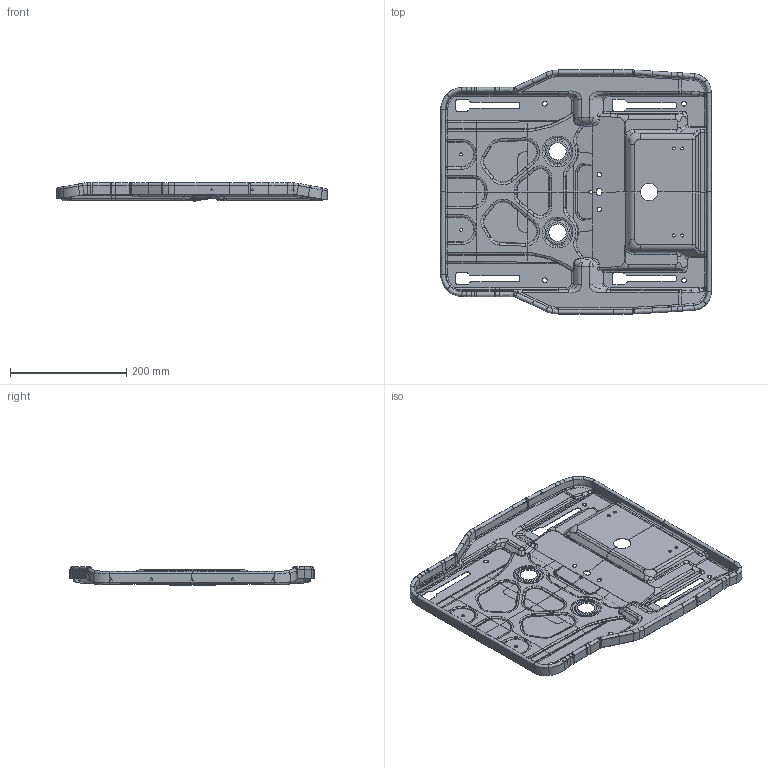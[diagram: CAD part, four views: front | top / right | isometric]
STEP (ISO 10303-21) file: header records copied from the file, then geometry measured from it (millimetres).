
FILE_DESCRIPTION(('CATIA V5 STEP'),'2;1');
FILE_NAME('E:\Gao Bingchuan\Desktop\SQX3000-6801101_F.stp','2021-11-19T12:38:22+00:00',('none'),('none'),'CATIA Version 5 Release 20 GA (IN-10)','CATIA V5 STEP AP203 WITH EXTENSIONS','none');
FILE_SCHEMA(('CONFIG_CONTROL_DESIGN','SHAPE_APPEARANCE_LAYER_MIM'));
Products named in the file (1): SQX3000-6801101
Bounding box: 466.21 x 420.71 x 31.4 mm (x, y, z)
Volume: 239843.8 mm3; surface area: 485019.8 mm2
Topology: 1 solids, 1 shells, 1890 faces, 4708 edges, 2782 vertices
Faces by surface type: bspline 1010, cylinder 540, plane 256, torus 44, cone 16, sphere 12, extrusion 12
Entity records: 193996 total; most frequent: CARTESIAN_POINT 159172, ORIENTED_EDGE 9368, EDGE_CURVE 4684, DIRECTION 3206, B_SPLINE_CURVE_WITH_KNOTS 3150, VERTEX_POINT 2782, EDGE_LOOP 1956, ADVANCED_FACE 1890
